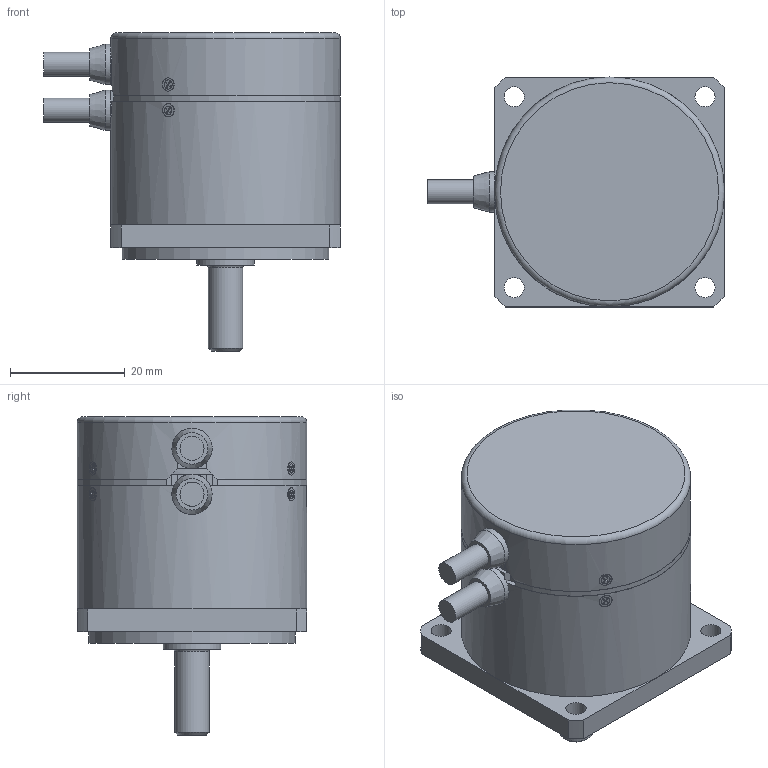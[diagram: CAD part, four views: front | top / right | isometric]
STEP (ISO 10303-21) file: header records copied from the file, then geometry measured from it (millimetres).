
FILE_DESCRIPTION(('STEP AP214'),'1');
FILE_NAME('MDS-4012.stp','2017-10-10T07:30:52',(' '),(' '),'Spatial InterOp 3D',' ',' ');
FILE_SCHEMA(('automotive_design'));
Length unit declared in the file: millimetre
Products named in the file (10): ケーブル; タッピングネジ M1.4x2.2; サラコネジ M1.4x2.5; ｱﾝｷﾞｭﾗﾍﾞｱﾘﾝｸﾞ MTA08-19; ブッシュ; カバー_S; ベース; シャフト_S4012; ケース_4012
Assembly tree (16 placements, depth 2):
  (unnamed)
    ケーブル  x2
    タッピングネジ M1.4x2.2  x3
    サラコネジ M1.4x2.5  x3
    ｱﾝｷﾞｭﾗﾍﾞｱﾘﾝｸﾞ MTA08-19  x2
    ブッシュ  x2
    カバー_S
    ベース
    シャフト_S4012
    ケース_4012
Bounding box: 51.7 x 40 x 55.45 mm (x, y, z)
Volume: 21469.1 mm3; surface area: 24881.4 mm2
Topology: 16 solids, 18 shells, 312 faces, 731 edges, 477 vertices
Faces by surface type: plane 190, cylinder 94, cone 25, torus 3
Full cylindrical faces by diameter (mm): 1.1 x6, 1.4 x12, 1.5 x3, 1.6 x9, 2.3 x6, 3.5 x4, 4.2 x4, 6 x1, 7 x2, 8 x4, 10 x1, 11 x4, 12 x2, 15 x2, 16 x4, 17 x2, 19 x4, 24 x1, 36 x1, 37 x1, 38 x1, 38.2 x1, 39 x2, 40 x2
Entity records: 7610 total; most frequent: CARTESIAN_POINT 1591, DIRECTION 891, ORIENTED_EDGE 720, EDGE_CURVE 360, AXIS2_PLACEMENT_3D 348, EDGE_LOOP 325, VERTEX_POINT 278, FACE_OUTER_BOUND 256
